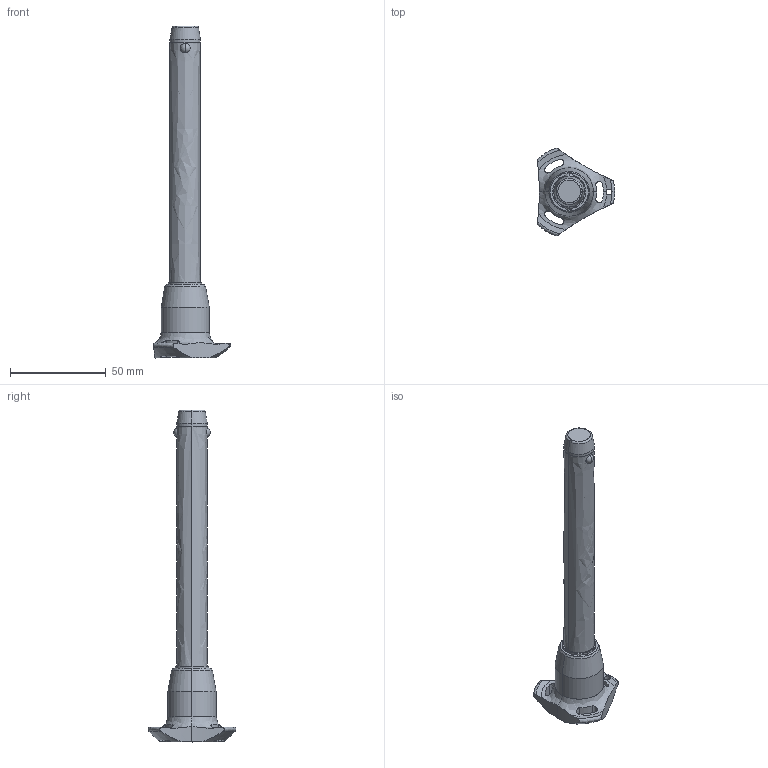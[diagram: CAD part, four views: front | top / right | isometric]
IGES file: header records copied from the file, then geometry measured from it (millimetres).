
Start section: SolidWorks IGES file using analytic representation for surfaces
Global section: file name: C:\Users\ianosborn\Desktop\QR1736_v2\QR1736_v2_20251115_IGES\QR1736.M16-120-T.igs; native system: SolidWorks 2019; preprocessor: SolidWorks 2019; author: IanOsborn; date: 251113.120922; units: millimetre
Bounding box: 40.5 x 45.88 x 173.7 mm (x, y, z)
Surface area: 12624.8 mm2 (no closed solid volume)
Topology: 0 solids, 0 shells, 68 faces, 1402 edges, 1398 vertices
Faces by surface type: revolution 52, bspline 16
